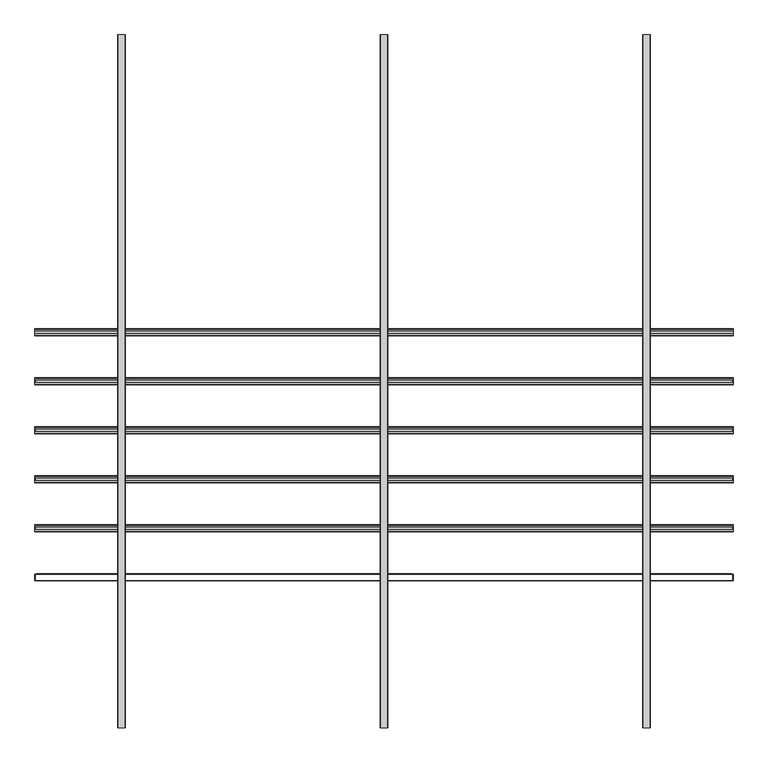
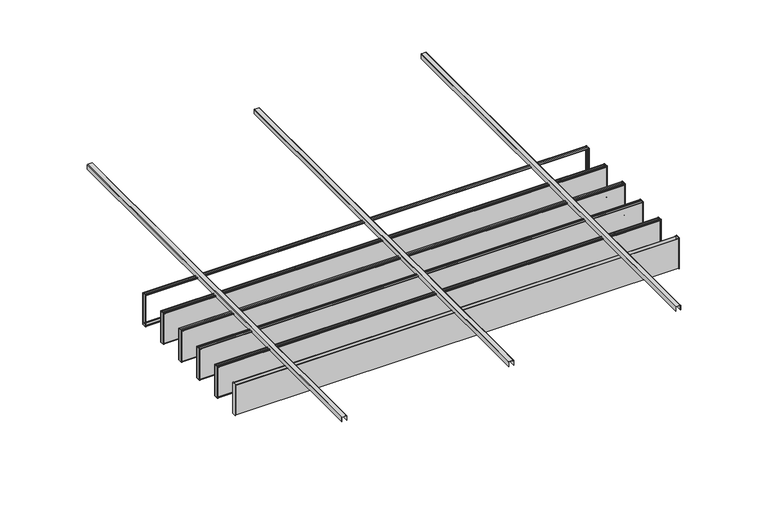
"""IFC4 building model written with IfcOpenShell, lengths in millimetres: proxy geometry, durlum_POLYLAM : durlum_POLYLAM 40."""

from ifc_helpers import new_model, si_unit, point, frame, frame_2d, origin, place, context, project, spatial, polyline, circle_curve, trimmed, segment, composite_curve, outline, extrude, source, transform, mapped, element, save
from ifc_brep_helpers import plane_surface, cylinder_surface, advanced_brep


def generic_models_b32e8602(model_context):
    return source(origin(), model_context, "Body", "SolidModel", [
        advanced_brep(
        [(1995.0, 298.0, 2016.9), (1995.0, 288.0, 2016.9), (1995.0, 288.0, 2015.9), (1995.0, 299.0, 2015.9), (1995.0, 299.0, 1717.9), (1995.0, 261.0, 1717.9), (1995.0, 261.0, 2015.8155735), (1995.0, 272.0, 2015.8155735), (1995.0, 272.0, 2016.9), (1995.0, 262.0, 2016.9), (1995.0, 260.0, 2014.9), (1995.0, 260.0, 1718.9), (1995.0, 262.0, 1716.9), (1995.0, 298.0, 1716.9), (1995.0, 300.0, 1718.9), (1995.0, 300.0, 2014.9), (-1995.0, 298.0, 2016.9), (-1995.0, 300.0, 2014.9), (-1995.0, 300.0, 1718.9), (-1995.0, 298.0, 1716.9), (-1995.0, 262.0, 1716.9), (-1995.0, 260.0, 1718.9), (-1995.0, 260.0, 2014.9), (-1995.0, 262.0, 2016.9), (-1995.0, 272.0, 2016.9), (-1995.0, 272.0, 2015.8155735), (-1995.0, 261.0, 2015.8155735), (-1995.0, 261.0, 1717.9), (-1995.0, 299.0, 1717.9), (-1995.0, 299.0, 2015.9), (-1995.0, 288.0, 2015.9), (-1995.0, 288.0, 2016.9), (-1986.5, 299.0, 2008.4), (1986.5, 299.0, 2008.4), (1986.5, 299.0, 1725.4), (-1986.5, 299.0, 1725.4), (1986.5, 261.0, 2008.4), (-1986.5, 261.0, 2008.4), (-1986.5, 261.0, 1725.4), (1986.5, 261.0, 1725.4), (-1986.5, 260.0, 2008.4), (1986.5, 260.0, 2008.4), (1986.5, 260.0, 1725.4), (-1986.5, 260.0, 1725.4), (1986.5, 300.0, 2008.4), (-1986.5, 300.0, 2008.4), (-1986.5, 300.0, 1725.4), (1986.5, 300.0, 1725.4)],
        [
            (0, 1),
            (1, 2),
            (2, 3),
            (3, 4),
            (4, 5),
            (5, 6),
            (6, 7),
            (7, 8),
            (8, 9),
            (9, 10, circle_curve(frame((1995.0, 262.0, 2014.9), z_axis=(1.0, 0.0, 0.0), x_axis=(0.0, 1.0, 0.0)), 2.0)),
            (10, 11),
            (11, 12, circle_curve(frame((1995.0, 262.0, 1718.9), z_axis=(1.0, 0.0, 0.0), x_axis=(0.0, 1.0, 0.0)), 2.0)),
            (12, 13),
            (13, 14, circle_curve(frame((1995.0, 298.0, 1718.9), z_axis=(1.0, 0.0, 0.0), x_axis=(0.0, 1.0, 0.0)), 2.0)),
            (14, 15),
            (15, 0, circle_curve(frame((1995.0, 298.0, 2014.9), z_axis=(1.0, 0.0, 0.0), x_axis=(0.0, 1.0, 0.0)), 2.0)),
            (16, 17, circle_curve(frame((-1995.0, 298.0, 2014.9), z_axis=(-1.0, 0.0, 0.0), x_axis=(0.0, 1.0, 0.0)), 2.0)),
            (17, 18),
            (18, 19, circle_curve(frame((-1995.0, 298.0, 1718.9), z_axis=(-1.0, 0.0, 0.0), x_axis=(0.0, 1.0, 0.0)), 2.0)),
            (19, 20),
            (20, 21, circle_curve(frame((-1995.0, 262.0, 1718.9), z_axis=(-1.0, 0.0, 0.0), x_axis=(0.0, 1.0, 0.0)), 2.0)),
            (21, 22),
            (22, 23, circle_curve(frame((-1995.0, 262.0, 2014.9), z_axis=(-1.0, 0.0, 0.0), x_axis=(0.0, 1.0, 0.0)), 2.0)),
            (23, 24),
            (24, 25),
            (25, 26),
            (26, 27),
            (27, 28),
            (28, 29),
            (29, 30),
            (30, 31),
            (31, 16),
            (0, 16),
            (31, 1),
            (30, 2),
            (29, 3),
            (28, 4),
            (32, 33),
            (33, 34),
            (34, 35),
            (35, 32),
            (27, 5),
            (26, 6),
            (36, 37),
            (37, 38),
            (38, 39),
            (39, 36),
            (25, 7),
            (24, 8),
            (23, 9),
            (10, 22),
            (21, 11),
            (40, 41),
            (41, 42),
            (42, 43),
            (43, 40),
            (12, 20),
            (19, 13),
            (14, 18),
            (17, 15),
            (44, 45),
            (45, 46),
            (46, 47),
            (47, 44),
            (44, 33),
            (32, 45),
            (36, 41),
            (40, 37),
            (35, 46),
            (43, 38),
            (34, 47),
            (42, 39),
        ],
        [
            plane_surface(frame((1995.0, 288.0, 2016.9), z_axis=(1.0, 0.0, 0.0), x_axis=(0.0, -1.0, 0.0))),
            plane_surface(frame((-1995.0, 288.0, 2016.9), z_axis=(-1.0, 0.0, 0.0), x_axis=(0.0, 1.0, 0.0))),
            plane_surface(frame((1995.0, 298.0, 2016.9), z_axis=(0.0, 0.0, 1.0), x_axis=(-1.0, 0.0, 0.0))),
            plane_surface(frame((1995.0, 288.0, 2016.9), z_axis=(0.0, -1.0, 0.0), x_axis=(-1.0, 0.0, 0.0))),
            plane_surface(frame((1995.0, 288.0, 2015.9), z_axis=(0.0, 0.0, -1.0), x_axis=(-1.0, 0.0, 0.0))),
            plane_surface(frame((1995.0, 299.0, 2015.9), z_axis=(0.0, -1.0, 0.0), x_axis=(-1.0, 0.0, 0.0))),
            plane_surface(frame((1995.0, 299.0, 1717.9), z_axis=(0.0, 0.0, 1.0), x_axis=(-1.0, 0.0, 0.0))),
            plane_surface(frame((1995.0, 261.0, 1717.9), z_axis=(0.0, 1.0, 0.0), x_axis=(-1.0, 0.0, 0.0))),
            plane_surface(frame((1995.0, 261.0, 2015.8155735), z_axis=(0.0, 0.0, -1.0), x_axis=(-1.0, 0.0, 0.0))),
            plane_surface(frame((1995.0, 272.0, 2015.8155735), z_axis=(0.0, 1.0, 0.0), x_axis=(-1.0, 0.0, 0.0))),
            plane_surface(frame((1995.0, 272.0, 2016.9), z_axis=(0.0, 0.0, 1.0), x_axis=(-1.0, 0.0, 0.0))),
            plane_surface(frame((1995.0, 260.0, 2014.9), z_axis=(0.0, -1.0, 0.0), x_axis=(-1.0, 0.0, 0.0))),
            plane_surface(frame((1995.0, 262.0, 1716.9), z_axis=(0.0, 0.0, -1.0), x_axis=(-1.0, 0.0, 0.0))),
            plane_surface(frame((1995.0, 300.0, 1718.9), z_axis=(0.0, 1.0, 0.0), x_axis=(-1.0, 0.0, 0.0))),
            cylinder_surface(frame((-1995.0, 262.0, 2014.9), z_axis=(1.0, 0.0, 0.0), x_axis=(0.0, 1.0, 0.0)), 2.0),
            cylinder_surface(frame((-1995.0, 262.0, 1718.9), z_axis=(1.0, 0.0, 0.0), x_axis=(0.0, 1.0, 0.0)), 2.0),
            cylinder_surface(frame((-1995.0, 298.0, 1718.9), z_axis=(1.0, 0.0, 0.0), x_axis=(0.0, 1.0, 0.0)), 2.0),
            cylinder_surface(frame((-1995.0, 298.0, 2014.9), z_axis=(1.0, 0.0, 0.0), x_axis=(0.0, 1.0, 0.0)), 2.0),
            plane_surface(frame((1986.5, 260.0, 2008.4), z_axis=(0.0, 0.0, -1.0), x_axis=(0.0, 1.0, 0.0))),
            plane_surface(frame((-1986.5, 260.0, 2008.4), z_axis=(1.0, 0.0, 0.0), x_axis=(0.0, 1.0, 0.0))),
            plane_surface(frame((-1986.5, 260.0, 1725.4), z_axis=(0.0, 0.0, 1.0), x_axis=(0.0, 1.0, 0.0))),
            plane_surface(frame((1986.5, 260.0, 1725.4), z_axis=(-1.0, 0.0, 0.0), x_axis=(0.0, 1.0, 0.0))),
        ],
        [
            (0, [[1, 2, 3, 4, 5, 6, 7, 8, 9, 10, 11, 12, 13, 14, 15, 16]]),
            (1, [[17, 18, 19, 20, 21, 22, 23, 24, 25, 26, 27, 28, 29, 30, 31, 32]]),
            (2, [[-1, 33, -32, 34]]),
            (3, [[-2, -34, -31, 35]]),
            (4, [[-3, -35, -30, 36]]),
            (5, [[-4, -36, -29, 37], [38, 39, 40, 41]]),
            (6, [[-5, -37, -28, 42]]),
            (7, [[-6, -42, -27, 43], [44, 45, 46, 47]]),
            (8, [[-7, -43, -26, 48]]),
            (9, [[-8, -48, -25, 49]]),
            (10, [[-9, -49, -24, 50]]),
            (11, [[-11, 51, -22, 52], [53, 54, 55, 56]]),
            (12, [[-13, 57, -20, 58]]),
            (13, [[-15, 59, -18, 60], [61, 62, 63, 64]]),
            (14, [[-10, -50, -23, -51]]),
            (15, [[-12, -52, -21, -57]]),
            (16, [[-14, -58, -19, -59]]),
            (17, [[-16, -60, -17, -33]]),
            (18, [[65, -38, 66, -61]]),
            (18, [[67, -53, 68, -44]]),
            (19, [[-66, -41, 69, -62]]),
            (19, [[-68, -56, 70, -45]]),
            (20, [[-69, -40, 71, -63]]),
            (20, [[-70, -55, 72, -46]]),
            (21, [[-65, -64, -71, -39]]),
            (21, [[-67, -47, -72, -54]]),
        ],
    ),
        extrude(outline(composite_curve([segment(polyline([(2005.0, 22.5), (2047.0, 22.5)]), True, "CONTINUOUS"), segment(trimmed(circle_curve(frame_2d((2047.0, 19.5)), 3.0), [point((2047.0, 22.5))], [point((2050.0, 19.5))], False, "CARTESIAN"), True, "CONTINUOUS"), segment(polyline([(2050.0, 19.5), (2050.0, -19.5)]), True, "CONTINUOUS"), segment(trimmed(circle_curve(frame_2d((2047.0, -19.5)), 3.0), [point((2050.0, -19.5))], [point((2047.0, -22.5))], False, "CARTESIAN"), True, "CONTINUOUS"), segment(polyline([(2047.0, -22.5), (2005.0, -22.5), (2005.0, -21.0), (2047.0, -21.0)]), True, "CONTINUOUS"), segment(trimmed(circle_curve(frame_2d((2047.0, -19.5)), 1.5), [point((2047.0, -21.0))], [point((2048.5, -19.5))], True, "CARTESIAN"), True, "CONTINUOUS"), segment(polyline([(2048.5, -19.5), (2048.5, 19.5)]), True, "CONTINUOUS"), segment(trimmed(circle_curve(frame_2d((2047.0, 19.5)), 1.5), [point((2048.5, 19.5))], [point((2047.0, 21.0))], True, "CARTESIAN"), True, "CONTINUOUS"), segment(polyline([(2047.0, 21.0), (2005.0, 21.0), (2005.0, 22.5)]), True, "CONTINUOUS")], self_intersect=False)), frame((0.0, -1980.0, 0.0), z_axis=(0.0, 1.0, 0.0), x_axis=(0.0, 0.0, 1.0)), (0.0, 0.0, 1.0), 3960.0),
        extrude(outline(composite_curve([segment(polyline([(2005.0, -1477.5), (2047.0, -1477.5)]), True, "CONTINUOUS"), segment(trimmed(circle_curve(frame_2d((2047.0, -1480.5)), 3.0), [point((2047.0, -1477.5))], [point((2050.0, -1480.5))], False, "CARTESIAN"), True, "CONTINUOUS"), segment(polyline([(2050.0, -1480.5), (2050.0, -1519.5)]), True, "CONTINUOUS"), segment(trimmed(circle_curve(frame_2d((2047.0, -1519.5)), 3.0), [point((2050.0, -1519.5))], [point((2047.0, -1522.5))], False, "CARTESIAN"), True, "CONTINUOUS"), segment(polyline([(2047.0, -1522.5), (2005.0, -1522.5), (2005.0, -1521.0), (2047.0, -1521.0)]), True, "CONTINUOUS"), segment(trimmed(circle_curve(frame_2d((2047.0, -1519.5)), 1.5), [point((2047.0, -1521.0))], [point((2048.5, -1519.5))], True, "CARTESIAN"), True, "CONTINUOUS"), segment(polyline([(2048.5, -1519.5), (2048.5, -1480.5)]), True, "CONTINUOUS"), segment(trimmed(circle_curve(frame_2d((2047.0, -1480.5)), 1.5), [point((2048.5, -1480.5))], [point((2047.0, -1479.0))], True, "CARTESIAN"), True, "CONTINUOUS"), segment(polyline([(2047.0, -1479.0), (2005.0, -1479.0), (2005.0, -1477.5)]), True, "CONTINUOUS")], self_intersect=False)), frame((0.0, -1980.0, 0.0), z_axis=(0.0, 1.0, 0.0), x_axis=(0.0, 0.0, 1.0)), (0.0, 0.0, 1.0), 3960.0),
        extrude(outline(composite_curve([segment(polyline([(2005.0, 1522.5), (2047.0, 1522.5)]), True, "CONTINUOUS"), segment(trimmed(circle_curve(frame_2d((2047.0, 1519.5)), 3.0), [point((2047.0, 1522.5))], [point((2050.0, 1519.5))], False, "CARTESIAN"), True, "CONTINUOUS"), segment(polyline([(2050.0, 1519.5), (2050.0, 1480.5)]), True, "CONTINUOUS"), segment(trimmed(circle_curve(frame_2d((2047.0, 1480.5)), 3.0), [point((2050.0, 1480.5))], [point((2047.0, 1477.5))], False, "CARTESIAN"), True, "CONTINUOUS"), segment(polyline([(2047.0, 1477.5), (2005.0, 1477.5), (2005.0, 1479.0), (2047.0, 1479.0)]), True, "CONTINUOUS"), segment(trimmed(circle_curve(frame_2d((2047.0, 1480.5)), 1.5), [point((2047.0, 1479.0))], [point((2048.5, 1480.5))], True, "CARTESIAN"), True, "CONTINUOUS"), segment(polyline([(2048.5, 1480.5), (2048.5, 1519.5)]), True, "CONTINUOUS"), segment(trimmed(circle_curve(frame_2d((2047.0, 1519.5)), 1.5), [point((2048.5, 1519.5))], [point((2047.0, 1521.0))], True, "CARTESIAN"), True, "CONTINUOUS"), segment(polyline([(2047.0, 1521.0), (2005.0, 1521.0), (2005.0, 1522.5)]), True, "CONTINUOUS")], self_intersect=False)), frame((0.0, -1980.0, 0.0), z_axis=(0.0, 1.0, 0.0), x_axis=(0.0, 0.0, 1.0)), (0.0, 0.0, 1.0), 3960.0),
        extrude(outline(polyline([(1986.5, 19.0), (-1986.5, 19.0), (-1986.5, 20.0), (1986.5, 20.0), (1986.5, 19.0)])), frame((0.0, 0.0, 1725.4), z_axis=(0.0, 0.0, 1.0), x_axis=(1.0, 0.0, 0.0)), (0.0, 0.0, 1.0), 283.0),
        extrude(outline(polyline([(1986.5, -20.0), (-1986.5, -20.0), (-1986.5, -19.0), (1986.5, -19.0), (1986.5, -20.0)])), frame((0.0, 0.0, 1725.4), z_axis=(0.0, 0.0, 1.0), x_axis=(1.0, 0.0, 0.0)), (0.0, 0.0, 1.0), 283.0),
        extrude(outline(polyline([(1993.0, 19.0), (1995.0, 19.0), (1995.0, -19.0), (1993.0, -19.0), (1993.0, 19.0)])), frame((0.0, 0.0, 1717.9), z_axis=(0.0, 0.0, 1.0), x_axis=(1.0, 0.0, 0.0)), (0.0, 0.0, 1.0), 298.0),
        extrude(outline(polyline([(-1995.0, 19.0), (-1993.0, 19.0), (-1993.0, -19.0), (-1995.0, -19.0), (-1995.0, 19.0)])), frame((0.0, 0.0, 1717.9), z_axis=(0.0, 0.0, 1.0), x_axis=(1.0, 0.0, 0.0)), (0.0, 0.0, 1.0), 298.0),
        advanced_brep(
        [(1995.0, 18.0, 2016.9), (1995.0, 8.0, 2016.9), (1995.0, 8.0, 2015.9), (1995.0, 19.0, 2015.9), (1995.0, 19.0, 1717.9), (1995.0, -19.0, 1717.9), (1995.0, -19.0, 2015.8155735), (1995.0, -8.0, 2015.8155735), (1995.0, -8.0, 2016.9), (1995.0, -18.0, 2016.9), (1995.0, -20.0, 2014.9), (1995.0, -20.0, 1718.9), (1995.0, -18.0, 1716.9), (1995.0, 18.0, 1716.9), (1995.0, 20.0, 1718.9), (1995.0, 20.0, 2014.9), (-1995.0, 18.0, 2016.9), (-1995.0, 20.0, 2014.9), (-1995.0, 20.0, 1718.9), (-1995.0, 18.0, 1716.9), (-1995.0, -18.0, 1716.9), (-1995.0, -20.0, 1718.9), (-1995.0, -20.0, 2014.9), (-1995.0, -18.0, 2016.9), (-1995.0, -8.0, 2016.9), (-1995.0, -8.0, 2015.8155735), (-1995.0, -19.0, 2015.8155735), (-1995.0, -19.0, 1717.9), (-1995.0, 19.0, 1717.9), (-1995.0, 19.0, 2015.9), (-1995.0, 8.0, 2015.9), (-1995.0, 8.0, 2016.9), (-1986.5, 19.0, 2008.4), (1986.5, 19.0, 2008.4), (1986.5, 19.0, 1725.4), (-1986.5, 19.0, 1725.4), (1986.5, -19.0, 2008.4), (-1986.5, -19.0, 2008.4), (-1986.5, -19.0, 1725.4), (1986.5, -19.0, 1725.4), (-1986.5, -20.0, 2008.4), (1986.5, -20.0, 2008.4), (1986.5, -20.0, 1725.4), (-1986.5, -20.0, 1725.4), (1986.5, 20.0, 2008.4), (-1986.5, 20.0, 2008.4), (-1986.5, 20.0, 1725.4), (1986.5, 20.0, 1725.4)],
        [
            (0, 1),
            (1, 2),
            (2, 3),
            (3, 4),
            (4, 5),
            (5, 6),
            (6, 7),
            (7, 8),
            (8, 9),
            (9, 10, circle_curve(frame((1995.0, -18.0, 2014.9), z_axis=(1.0, 0.0, 0.0), x_axis=(0.0, 1.0, 0.0)), 2.0)),
            (10, 11),
            (11, 12, circle_curve(frame((1995.0, -18.0, 1718.9), z_axis=(1.0, 0.0, 0.0), x_axis=(0.0, 1.0, 0.0)), 2.0)),
            (12, 13),
            (13, 14, circle_curve(frame((1995.0, 18.0, 1718.9), z_axis=(1.0, 0.0, 0.0), x_axis=(0.0, 1.0, 0.0)), 2.0)),
            (14, 15),
            (15, 0, circle_curve(frame((1995.0, 18.0, 2014.9), z_axis=(1.0, 0.0, 0.0), x_axis=(0.0, 1.0, 0.0)), 2.0)),
            (16, 17, circle_curve(frame((-1995.0, 18.0, 2014.9), z_axis=(-1.0, 0.0, 0.0), x_axis=(0.0, 1.0, 0.0)), 2.0)),
            (17, 18),
            (18, 19, circle_curve(frame((-1995.0, 18.0, 1718.9), z_axis=(-1.0, 0.0, 0.0), x_axis=(0.0, 1.0, 0.0)), 2.0)),
            (19, 20),
            (20, 21, circle_curve(frame((-1995.0, -18.0, 1718.9), z_axis=(-1.0, 0.0, 0.0), x_axis=(0.0, 1.0, 0.0)), 2.0)),
            (21, 22),
            (22, 23, circle_curve(frame((-1995.0, -18.0, 2014.9), z_axis=(-1.0, 0.0, 0.0), x_axis=(0.0, 1.0, 0.0)), 2.0)),
            (23, 24),
            (24, 25),
            (25, 26),
            (26, 27),
            (27, 28),
            (28, 29),
            (29, 30),
            (30, 31),
            (31, 16),
            (0, 16),
            (31, 1),
            (30, 2),
            (29, 3),
            (28, 4),
            (32, 33),
            (33, 34),
            (34, 35),
            (35, 32),
            (27, 5),
            (26, 6),
            (36, 37),
            (37, 38),
            (38, 39),
            (39, 36),
            (25, 7),
            (24, 8),
            (23, 9),
            (10, 22),
            (21, 11),
            (40, 41),
            (41, 42),
            (42, 43),
            (43, 40),
            (12, 20),
            (19, 13),
            (14, 18),
            (17, 15),
            (44, 45),
            (45, 46),
            (46, 47),
            (47, 44),
            (44, 33),
            (32, 45),
            (36, 41),
            (40, 37),
            (35, 46),
            (43, 38),
            (34, 47),
            (42, 39),
        ],
        [
            plane_surface(frame((1995.0, 8.0, 2016.9), z_axis=(1.0, 0.0, 0.0), x_axis=(0.0, -1.0, 0.0))),
            plane_surface(frame((-1995.0, 8.0, 2016.9), z_axis=(-1.0, 0.0, 0.0), x_axis=(0.0, 1.0, 0.0))),
            plane_surface(frame((1995.0, 18.0, 2016.9), z_axis=(0.0, 0.0, 1.0), x_axis=(-1.0, 0.0, 0.0))),
            plane_surface(frame((1995.0, 8.0, 2016.9), z_axis=(0.0, -1.0, 0.0), x_axis=(-1.0, 0.0, 0.0))),
            plane_surface(frame((1995.0, 8.0, 2015.9), z_axis=(0.0, 0.0, -1.0), x_axis=(-1.0, 0.0, 0.0))),
            plane_surface(frame((1995.0, 19.0, 2015.9), z_axis=(0.0, -1.0, 0.0), x_axis=(-1.0, 0.0, 0.0))),
            plane_surface(frame((1995.0, 19.0, 1717.9), z_axis=(0.0, 0.0, 1.0), x_axis=(-1.0, 0.0, 0.0))),
            plane_surface(frame((1995.0, -19.0, 1717.9), z_axis=(0.0, 1.0, 0.0), x_axis=(-1.0, 0.0, 0.0))),
            plane_surface(frame((1995.0, -19.0, 2015.8155735), z_axis=(0.0, 0.0, -1.0), x_axis=(-1.0, 0.0, 0.0))),
            plane_surface(frame((1995.0, -8.0, 2015.8155735), z_axis=(0.0, 1.0, 0.0), x_axis=(-1.0, 0.0, 0.0))),
            plane_surface(frame((1995.0, -8.0, 2016.9), z_axis=(0.0, 0.0, 1.0), x_axis=(-1.0, 0.0, 0.0))),
            plane_surface(frame((1995.0, -20.0, 2014.9), z_axis=(0.0, -1.0, 0.0), x_axis=(-1.0, 0.0, 0.0))),
            plane_surface(frame((1995.0, -18.0, 1716.9), z_axis=(0.0, 0.0, -1.0), x_axis=(-1.0, 0.0, 0.0))),
            plane_surface(frame((1995.0, 20.0, 1718.9), z_axis=(0.0, 1.0, 0.0), x_axis=(-1.0, 0.0, 0.0))),
            cylinder_surface(frame((-1995.0, -18.0, 2014.9), z_axis=(1.0, 0.0, 0.0), x_axis=(0.0, 1.0, 0.0)), 2.0),
            cylinder_surface(frame((-1995.0, -18.0, 1718.9), z_axis=(1.0, 0.0, 0.0), x_axis=(0.0, 1.0, 0.0)), 2.0),
            cylinder_surface(frame((-1995.0, 18.0, 1718.9), z_axis=(1.0, 0.0, 0.0), x_axis=(0.0, 1.0, 0.0)), 2.0),
            cylinder_surface(frame((-1995.0, 18.0, 2014.9), z_axis=(1.0, 0.0, 0.0), x_axis=(0.0, 1.0, 0.0)), 2.0),
            plane_surface(frame((1986.5, -20.0, 2008.4), z_axis=(0.0, 0.0, -1.0), x_axis=(0.0, 1.0, 0.0))),
            plane_surface(frame((-1986.5, -20.0, 2008.4), z_axis=(1.0, 0.0, 0.0), x_axis=(0.0, 1.0, 0.0))),
            plane_surface(frame((-1986.5, -20.0, 1725.4), z_axis=(0.0, 0.0, 1.0), x_axis=(0.0, 1.0, 0.0))),
            plane_surface(frame((1986.5, -20.0, 1725.4), z_axis=(-1.0, 0.0, 0.0), x_axis=(0.0, 1.0, 0.0))),
        ],
        [
            (0, [[1, 2, 3, 4, 5, 6, 7, 8, 9, 10, 11, 12, 13, 14, 15, 16]]),
            (1, [[17, 18, 19, 20, 21, 22, 23, 24, 25, 26, 27, 28, 29, 30, 31, 32]]),
            (2, [[-1, 33, -32, 34]]),
            (3, [[-2, -34, -31, 35]]),
            (4, [[-3, -35, -30, 36]]),
            (5, [[-4, -36, -29, 37], [38, 39, 40, 41]]),
            (6, [[-5, -37, -28, 42]]),
            (7, [[-6, -42, -27, 43], [44, 45, 46, 47]]),
            (8, [[-7, -43, -26, 48]]),
            (9, [[-8, -48, -25, 49]]),
            (10, [[-9, -49, -24, 50]]),
            (11, [[-11, 51, -22, 52], [53, 54, 55, 56]]),
            (12, [[-13, 57, -20, 58]]),
            (13, [[-15, 59, -18, 60], [61, 62, 63, 64]]),
            (14, [[-10, -50, -23, -51]]),
            (15, [[-12, -52, -21, -57]]),
            (16, [[-14, -58, -19, -59]]),
            (17, [[-16, -60, -17, -33]]),
            (18, [[65, -38, 66, -61]]),
            (18, [[67, -53, 68, -44]]),
            (19, [[-66, -41, 69, -62]]),
            (19, [[-68, -56, 70, -45]]),
            (20, [[-69, -40, 71, -63]]),
            (20, [[-70, -55, 72, -46]]),
            (21, [[-65, -64, -71, -39]]),
            (21, [[-67, -47, -72, -54]]),
        ],
    ),
        extrude(outline(polyline([(1986.5, -261.0), (-1986.5, -261.0), (-1986.5, -260.0), (1986.5, -260.0), (1986.5, -261.0)])), frame((0.0, 0.0, 1725.4), z_axis=(0.0, 0.0, 1.0), x_axis=(1.0, 0.0, 0.0)), (0.0, 0.0, 1.0), 283.0),
        extrude(outline(polyline([(1986.5, -300.0), (-1986.5, -300.0), (-1986.5, -299.0), (1986.5, -299.0), (1986.5, -300.0)])), frame((0.0, 0.0, 1725.4), z_axis=(0.0, 0.0, 1.0), x_axis=(1.0, 0.0, 0.0)), (0.0, 0.0, 1.0), 283.0),
        extrude(outline(polyline([(1993.0, -261.0), (1995.0, -261.0), (1995.0, -299.0), (1993.0, -299.0), (1993.0, -261.0)])), frame((0.0, 0.0, 1717.9), z_axis=(0.0, 0.0, 1.0), x_axis=(1.0, 0.0, 0.0)), (0.0, 0.0, 1.0), 298.0),
        extrude(outline(polyline([(-1995.0, -261.0), (-1993.0, -261.0), (-1993.0, -299.0), (-1995.0, -299.0), (-1995.0, -261.0)])), frame((0.0, 0.0, 1717.9), z_axis=(0.0, 0.0, 1.0), x_axis=(1.0, 0.0, 0.0)), (0.0, 0.0, 1.0), 298.0),
        advanced_brep(
        [(1995.0, -262.0, 2016.9), (1995.0, -272.0, 2016.9), (1995.0, -272.0, 2015.9), (1995.0, -261.0, 2015.9), (1995.0, -261.0, 1717.9), (1995.0, -299.0, 1717.9), (1995.0, -299.0, 2015.8155735), (1995.0, -288.0, 2015.8155735), (1995.0, -288.0, 2016.9), (1995.0, -298.0, 2016.9), (1995.0, -300.0, 2014.9), (1995.0, -300.0, 1718.9), (1995.0, -298.0, 1716.9), (1995.0, -262.0, 1716.9), (1995.0, -260.0, 1718.9), (1995.0, -260.0, 2014.9), (-1995.0, -262.0, 2016.9), (-1995.0, -260.0, 2014.9), (-1995.0, -260.0, 1718.9), (-1995.0, -262.0, 1716.9), (-1995.0, -298.0, 1716.9), (-1995.0, -300.0, 1718.9), (-1995.0, -300.0, 2014.9), (-1995.0, -298.0, 2016.9), (-1995.0, -288.0, 2016.9), (-1995.0, -288.0, 2015.8155735), (-1995.0, -299.0, 2015.8155735), (-1995.0, -299.0, 1717.9), (-1995.0, -261.0, 1717.9), (-1995.0, -261.0, 2015.9), (-1995.0, -272.0, 2015.9), (-1995.0, -272.0, 2016.9), (-1986.5, -261.0, 2008.4), (1986.5, -261.0, 2008.4), (1986.5, -261.0, 1725.4), (-1986.5, -261.0, 1725.4), (1986.5, -299.0, 2008.4), (-1986.5, -299.0, 2008.4), (-1986.5, -299.0, 1725.4), (1986.5, -299.0, 1725.4), (-1986.5, -300.0, 2008.4), (1986.5, -300.0, 2008.4), (1986.5, -300.0, 1725.4), (-1986.5, -300.0, 1725.4), (1986.5, -260.0, 2008.4), (-1986.5, -260.0, 2008.4), (-1986.5, -260.0, 1725.4), (1986.5, -260.0, 1725.4)],
        [
            (0, 1),
            (1, 2),
            (2, 3),
            (3, 4),
            (4, 5),
            (5, 6),
            (6, 7),
            (7, 8),
            (8, 9),
            (9, 10, circle_curve(frame((1995.0, -298.0, 2014.9), z_axis=(1.0, 0.0, 0.0), x_axis=(0.0, 1.0, 0.0)), 2.0)),
            (10, 11),
            (11, 12, circle_curve(frame((1995.0, -298.0, 1718.9), z_axis=(1.0, 0.0, 0.0), x_axis=(0.0, 1.0, 0.0)), 2.0)),
            (12, 13),
            (13, 14, circle_curve(frame((1995.0, -262.0, 1718.9), z_axis=(1.0, 0.0, 0.0), x_axis=(0.0, 1.0, 0.0)), 2.0)),
            (14, 15),
            (15, 0, circle_curve(frame((1995.0, -262.0, 2014.9), z_axis=(1.0, 0.0, 0.0), x_axis=(0.0, 1.0, 0.0)), 2.0)),
            (16, 17, circle_curve(frame((-1995.0, -262.0, 2014.9), z_axis=(-1.0, 0.0, 0.0), x_axis=(0.0, 1.0, 0.0)), 2.0)),
            (17, 18),
            (18, 19, circle_curve(frame((-1995.0, -262.0, 1718.9), z_axis=(-1.0, 0.0, 0.0), x_axis=(0.0, 1.0, 0.0)), 2.0)),
            (19, 20),
            (20, 21, circle_curve(frame((-1995.0, -298.0, 1718.9), z_axis=(-1.0, 0.0, 0.0), x_axis=(0.0, 1.0, 0.0)), 2.0)),
            (21, 22),
            (22, 23, circle_curve(frame((-1995.0, -298.0, 2014.9), z_axis=(-1.0, 0.0, 0.0), x_axis=(0.0, 1.0, 0.0)), 2.0)),
            (23, 24),
            (24, 25),
            (25, 26),
            (26, 27),
            (27, 28),
            (28, 29),
            (29, 30),
            (30, 31),
            (31, 16),
            (0, 16),
            (31, 1),
            (30, 2),
            (29, 3),
            (28, 4),
            (32, 33),
            (33, 34),
            (34, 35),
            (35, 32),
            (27, 5),
            (26, 6),
            (36, 37),
            (37, 38),
            (38, 39),
            (39, 36),
            (25, 7),
            (24, 8),
            (23, 9),
            (10, 22),
            (21, 11),
            (40, 41),
            (41, 42),
            (42, 43),
            (43, 40),
            (12, 20),
            (19, 13),
            (14, 18),
            (17, 15),
            (44, 45),
            (45, 46),
            (46, 47),
            (47, 44),
            (44, 33),
            (32, 45),
            (36, 41),
            (40, 37),
            (35, 46),
            (43, 38),
            (34, 47),
            (42, 39),
        ],
        [
            plane_surface(frame((1995.0, -272.0, 2016.9), z_axis=(1.0, 0.0, 0.0), x_axis=(0.0, -1.0, 0.0))),
            plane_surface(frame((-1995.0, -272.0, 2016.9), z_axis=(-1.0, 0.0, 0.0), x_axis=(0.0, 1.0, 0.0))),
            plane_surface(frame((1995.0, -262.0, 2016.9), z_axis=(0.0, 0.0, 1.0), x_axis=(-1.0, 0.0, 0.0))),
            plane_surface(frame((1995.0, -272.0, 2016.9), z_axis=(0.0, -1.0, 0.0), x_axis=(-1.0, 0.0, 0.0))),
            plane_surface(frame((1995.0, -272.0, 2015.9), z_axis=(0.0, 0.0, -1.0), x_axis=(-1.0, 0.0, 0.0))),
            plane_surface(frame((1995.0, -261.0, 2015.9), z_axis=(0.0, -1.0, 0.0), x_axis=(-1.0, 0.0, 0.0))),
            plane_surface(frame((1995.0, -261.0, 1717.9), z_axis=(0.0, 0.0, 1.0), x_axis=(-1.0, 0.0, 0.0))),
            plane_surface(frame((1995.0, -299.0, 1717.9), z_axis=(0.0, 1.0, 0.0), x_axis=(-1.0, 0.0, 0.0))),
            plane_surface(frame((1995.0, -299.0, 2015.8155735), z_axis=(0.0, 0.0, -1.0), x_axis=(-1.0, 0.0, 0.0))),
            plane_surface(frame((1995.0, -288.0, 2015.8155735), z_axis=(0.0, 1.0, 0.0), x_axis=(-1.0, 0.0, 0.0))),
            plane_surface(frame((1995.0, -288.0, 2016.9), z_axis=(0.0, 0.0, 1.0), x_axis=(-1.0, 0.0, 0.0))),
            plane_surface(frame((1995.0, -300.0, 2014.9), z_axis=(0.0, -1.0, 0.0), x_axis=(-1.0, 0.0, 0.0))),
            plane_surface(frame((1995.0, -298.0, 1716.9), z_axis=(0.0, 0.0, -1.0), x_axis=(-1.0, 0.0, 0.0))),
            plane_surface(frame((1995.0, -260.0, 1718.9), z_axis=(0.0, 1.0, 0.0), x_axis=(-1.0, 0.0, 0.0))),
            cylinder_surface(frame((-1995.0, -298.0, 2014.9), z_axis=(1.0, 0.0, 0.0), x_axis=(0.0, 1.0, 0.0)), 2.0),
            cylinder_surface(frame((-1995.0, -298.0, 1718.9), z_axis=(1.0, 0.0, 0.0), x_axis=(0.0, 1.0, 0.0)), 2.0),
            cylinder_surface(frame((-1995.0, -262.0, 1718.9), z_axis=(1.0, 0.0, 0.0), x_axis=(0.0, 1.0, 0.0)), 2.0),
            cylinder_surface(frame((-1995.0, -262.0, 2014.9), z_axis=(1.0, 0.0, 0.0), x_axis=(0.0, 1.0, 0.0)), 2.0),
            plane_surface(frame((1986.5, -300.0, 2008.4), z_axis=(0.0, 0.0, -1.0), x_axis=(0.0, 1.0, 0.0))),
            plane_surface(frame((-1986.5, -300.0, 2008.4), z_axis=(1.0, 0.0, 0.0), x_axis=(0.0, 1.0, 0.0))),
            plane_surface(frame((-1986.5, -300.0, 1725.4), z_axis=(0.0, 0.0, 1.0), x_axis=(0.0, 1.0, 0.0))),
            plane_surface(frame((1986.5, -300.0, 1725.4), z_axis=(-1.0, 0.0, 0.0), x_axis=(0.0, 1.0, 0.0))),
        ],
        [
            (0, [[1, 2, 3, 4, 5, 6, 7, 8, 9, 10, 11, 12, 13, 14, 15, 16]]),
            (1, [[17, 18, 19, 20, 21, 22, 23, 24, 25, 26, 27, 28, 29, 30, 31, 32]]),
            (2, [[-1, 33, -32, 34]]),
            (3, [[-2, -34, -31, 35]]),
            (4, [[-3, -35, -30, 36]]),
            (5, [[-4, -36, -29, 37], [38, 39, 40, 41]]),
            (6, [[-5, -37, -28, 42]]),
            (7, [[-6, -42, -27, 43], [44, 45, 46, 47]]),
            (8, [[-7, -43, -26, 48]]),
            (9, [[-8, -48, -25, 49]]),
            (10, [[-9, -49, -24, 50]]),
            (11, [[-11, 51, -22, 52], [53, 54, 55, 56]]),
            (12, [[-13, 57, -20, 58]]),
            (13, [[-15, 59, -18, 60], [61, 62, 63, 64]]),
            (14, [[-10, -50, -23, -51]]),
            (15, [[-12, -52, -21, -57]]),
            (16, [[-14, -58, -19, -59]]),
            (17, [[-16, -60, -17, -33]]),
            (18, [[65, -38, 66, -61]]),
            (18, [[67, -53, 68, -44]]),
            (19, [[-66, -41, 69, -62]]),
            (19, [[-68, -56, 70, -45]]),
            (20, [[-69, -40, 71, -63]]),
            (20, [[-70, -55, 72, -46]]),
            (21, [[-65, -64, -71, -39]]),
            (21, [[-67, -47, -72, -54]]),
        ],
    ),
        extrude(outline(polyline([(1986.5, -541.0), (-1986.5, -541.0), (-1986.5, -540.0), (1986.5, -540.0), (1986.5, -541.0)])), frame((0.0, 0.0, 1725.4), z_axis=(0.0, 0.0, 1.0), x_axis=(1.0, 0.0, 0.0)), (0.0, 0.0, 1.0), 283.0),
        extrude(outline(polyline([(1986.5, -580.0), (-1986.5, -580.0), (-1986.5, -579.0), (1986.5, -579.0), (1986.5, -580.0)])), frame((0.0, 0.0, 1725.4), z_axis=(0.0, 0.0, 1.0), x_axis=(1.0, 0.0, 0.0)), (0.0, 0.0, 1.0), 283.0),
        extrude(outline(polyline([(1993.0, -541.0), (1995.0, -541.0), (1995.0, -579.0), (1993.0, -579.0), (1993.0, -541.0)])), frame((0.0, 0.0, 1717.9), z_axis=(0.0, 0.0, 1.0), x_axis=(1.0, 0.0, 0.0)), (0.0, 0.0, 1.0), 298.0),
        extrude(outline(polyline([(-1995.0, -541.0), (-1993.0, -541.0), (-1993.0, -579.0), (-1995.0, -579.0), (-1995.0, -541.0)])), frame((0.0, 0.0, 1717.9), z_axis=(0.0, 0.0, 1.0), x_axis=(1.0, 0.0, 0.0)), (0.0, 0.0, 1.0), 298.0),
        advanced_brep(
        [(1995.0, -542.0, 2016.9), (1995.0, -552.0, 2016.9), (1995.0, -552.0, 2015.9), (1995.0, -541.0, 2015.9), (1995.0, -541.0, 1717.9), (1995.0, -579.0, 1717.9), (1995.0, -579.0, 2015.8155735), (1995.0, -568.0, 2015.8155735), (1995.0, -568.0, 2016.9), (1995.0, -578.0, 2016.9), (1995.0, -580.0, 2014.9), (1995.0, -580.0, 1718.9), (1995.0, -578.0, 1716.9), (1995.0, -542.0, 1716.9), (1995.0, -540.0, 1718.9), (1995.0, -540.0, 2014.9), (-1995.0, -542.0, 2016.9), (-1995.0, -540.0, 2014.9), (-1995.0, -540.0, 1718.9), (-1995.0, -542.0, 1716.9), (-1995.0, -578.0, 1716.9), (-1995.0, -580.0, 1718.9), (-1995.0, -580.0, 2014.9), (-1995.0, -578.0, 2016.9), (-1995.0, -568.0, 2016.9), (-1995.0, -568.0, 2015.8155735), (-1995.0, -579.0, 2015.8155735), (-1995.0, -579.0, 1717.9), (-1995.0, -541.0, 1717.9), (-1995.0, -541.0, 2015.9), (-1995.0, -552.0, 2015.9), (-1995.0, -552.0, 2016.9), (-1986.5, -541.0, 2008.4), (1986.5, -541.0, 2008.4), (1986.5, -541.0, 1725.4), (-1986.5, -541.0, 1725.4), (1986.5, -579.0, 2008.4), (-1986.5, -579.0, 2008.4), (-1986.5, -579.0, 1725.4), (1986.5, -579.0, 1725.4), (-1986.5, -580.0, 2008.4), (1986.5, -580.0, 2008.4), (1986.5, -580.0, 1725.4), (-1986.5, -580.0, 1725.4), (1986.5, -540.0, 2008.4), (-1986.5, -540.0, 2008.4), (-1986.5, -540.0, 1725.4), (1986.5, -540.0, 1725.4)],
        [
            (0, 1),
            (1, 2),
            (2, 3),
            (3, 4),
            (4, 5),
            (5, 6),
            (6, 7),
            (7, 8),
            (8, 9),
            (9, 10, circle_curve(frame((1995.0, -578.0, 2014.9), z_axis=(1.0, 0.0, 0.0), x_axis=(0.0, 1.0, 0.0)), 2.0)),
            (10, 11),
            (11, 12, circle_curve(frame((1995.0, -578.0, 1718.9), z_axis=(1.0, 0.0, 0.0), x_axis=(0.0, 1.0, 0.0)), 2.0)),
            (12, 13),
            (13, 14, circle_curve(frame((1995.0, -542.0, 1718.9), z_axis=(1.0, 0.0, 0.0), x_axis=(0.0, 1.0, 0.0)), 2.0)),
            (14, 15),
            (15, 0, circle_curve(frame((1995.0, -542.0, 2014.9), z_axis=(1.0, 0.0, 0.0), x_axis=(0.0, 1.0, 0.0)), 2.0)),
            (16, 17, circle_curve(frame((-1995.0, -542.0, 2014.9), z_axis=(-1.0, 0.0, 0.0), x_axis=(0.0, 1.0, 0.0)), 2.0)),
            (17, 18),
            (18, 19, circle_curve(frame((-1995.0, -542.0, 1718.9), z_axis=(-1.0, 0.0, 0.0), x_axis=(0.0, 1.0, 0.0)), 2.0)),
            (19, 20),
            (20, 21, circle_curve(frame((-1995.0, -578.0, 1718.9), z_axis=(-1.0, 0.0, 0.0), x_axis=(0.0, 1.0, 0.0)), 2.0)),
            (21, 22),
            (22, 23, circle_curve(frame((-1995.0, -578.0, 2014.9), z_axis=(-1.0, 0.0, 0.0), x_axis=(0.0, 1.0, 0.0)), 2.0)),
            (23, 24),
            (24, 25),
            (25, 26),
            (26, 27),
            (27, 28),
            (28, 29),
            (29, 30),
            (30, 31),
            (31, 16),
            (0, 16),
            (31, 1),
            (30, 2),
            (29, 3),
            (28, 4),
            (32, 33),
            (33, 34),
            (34, 35),
            (35, 32),
            (27, 5),
            (26, 6),
            (36, 37),
            (37, 38),
            (38, 39),
            (39, 36),
            (25, 7),
            (24, 8),
            (23, 9),
            (10, 22),
            (21, 11),
            (40, 41),
            (41, 42),
            (42, 43),
            (43, 40),
            (12, 20),
            (19, 13),
            (14, 18),
            (17, 15),
            (44, 45),
            (45, 46),
            (46, 47),
            (47, 44),
            (44, 33),
            (32, 45),
            (36, 41),
            (40, 37),
            (35, 46),
            (43, 38),
            (34, 47),
            (42, 39),
        ],
        [
            plane_surface(frame((1995.0, -552.0, 2016.9), z_axis=(1.0, 0.0, 0.0), x_axis=(0.0, -1.0, 0.0))),
            plane_surface(frame((-1995.0, -552.0, 2016.9), z_axis=(-1.0, 0.0, 0.0), x_axis=(0.0, 1.0, 0.0))),
            plane_surface(frame((1995.0, -542.0, 2016.9), z_axis=(0.0, 0.0, 1.0), x_axis=(-1.0, 0.0, 0.0))),
            plane_surface(frame((1995.0, -552.0, 2016.9), z_axis=(0.0, -1.0, 0.0), x_axis=(-1.0, 0.0, 0.0))),
            plane_surface(frame((1995.0, -552.0, 2015.9), z_axis=(0.0, 0.0, -1.0), x_axis=(-1.0, 0.0, 0.0))),
            plane_surface(frame((1995.0, -541.0, 2015.9), z_axis=(0.0, -1.0, 0.0), x_axis=(-1.0, 0.0, 0.0))),
            plane_surface(frame((1995.0, -541.0, 1717.9), z_axis=(0.0, 0.0, 1.0), x_axis=(-1.0, 0.0, 0.0))),
            plane_surface(frame((1995.0, -579.0, 1717.9), z_axis=(0.0, 1.0, 0.0), x_axis=(-1.0, 0.0, 0.0))),
            plane_surface(frame((1995.0, -579.0, 2015.8155735), z_axis=(0.0, 0.0, -1.0), x_axis=(-1.0, 0.0, 0.0))),
            plane_surface(frame((1995.0, -568.0, 2015.8155735), z_axis=(0.0, 1.0, 0.0), x_axis=(-1.0, 0.0, 0.0))),
            plane_surface(frame((1995.0, -568.0, 2016.9), z_axis=(0.0, 0.0, 1.0), x_axis=(-1.0, 0.0, 0.0))),
            plane_surface(frame((1995.0, -580.0, 2014.9), z_axis=(0.0, -1.0, 0.0), x_axis=(-1.0, 0.0, 0.0))),
            plane_surface(frame((1995.0, -578.0, 1716.9), z_axis=(0.0, 0.0, -1.0), x_axis=(-1.0, 0.0, 0.0))),
            plane_surface(frame((1995.0, -540.0, 1718.9), z_axis=(0.0, 1.0, 0.0), x_axis=(-1.0, 0.0, 0.0))),
            cylinder_surface(frame((-1995.0, -578.0, 2014.9), z_axis=(1.0, 0.0, 0.0), x_axis=(0.0, 1.0, 0.0)), 2.0),
            cylinder_surface(frame((-1995.0, -578.0, 1718.9), z_axis=(1.0, 0.0, 0.0), x_axis=(0.0, 1.0, 0.0)), 2.0),
            cylinder_surface(frame((-1995.0, -542.0, 1718.9), z_axis=(1.0, 0.0, 0.0), x_axis=(0.0, 1.0, 0.0)), 2.0),
            cylinder_surface(frame((-1995.0, -542.0, 2014.9), z_axis=(1.0, 0.0, 0.0), x_axis=(0.0, 1.0, 0.0)), 2.0),
            plane_surface(frame((1986.5, -580.0, 2008.4), z_axis=(0.0, 0.0, -1.0), x_axis=(0.0, 1.0, 0.0))),
            plane_surface(frame((-1986.5, -580.0, 2008.4), z_axis=(1.0, 0.0, 0.0), x_axis=(0.0, 1.0, 0.0))),
            plane_surface(frame((-1986.5, -580.0, 1725.4), z_axis=(0.0, 0.0, 1.0), x_axis=(0.0, 1.0, 0.0))),
            plane_surface(frame((1986.5, -580.0, 1725.4), z_axis=(-1.0, 0.0, 0.0), x_axis=(0.0, 1.0, 0.0))),
        ],
        [
            (0, [[1, 2, 3, 4, 5, 6, 7, 8, 9, 10, 11, 12, 13, 14, 15, 16]]),
            (1, [[17, 18, 19, 20, 21, 22, 23, 24, 25, 26, 27, 28, 29, 30, 31, 32]]),
            (2, [[-1, 33, -32, 34]]),
            (3, [[-2, -34, -31, 35]]),
            (4, [[-3, -35, -30, 36]]),
            (5, [[-4, -36, -29, 37], [38, 39, 40, 41]]),
            (6, [[-5, -37, -28, 42]]),
            (7, [[-6, -42, -27, 43], [44, 45, 46, 47]]),
            (8, [[-7, -43, -26, 48]]),
            (9, [[-8, -48, -25, 49]]),
            (10, [[-9, -49, -24, 50]]),
            (11, [[-11, 51, -22, 52], [53, 54, 55, 56]]),
            (12, [[-13, 57, -20, 58]]),
            (13, [[-15, 59, -18, 60], [61, 62, 63, 64]]),
            (14, [[-10, -50, -23, -51]]),
            (15, [[-12, -52, -21, -57]]),
            (16, [[-14, -58, -19, -59]]),
            (17, [[-16, -60, -17, -33]]),
            (18, [[65, -38, 66, -61]]),
            (18, [[67, -53, 68, -44]]),
            (19, [[-66, -41, 69, -62]]),
            (19, [[-68, -56, 70, -45]]),
            (20, [[-69, -40, 71, -63]]),
            (20, [[-70, -55, 72, -46]]),
            (21, [[-65, -64, -71, -39]]),
            (21, [[-67, -47, -72, -54]]),
        ],
    ),
        extrude(outline(polyline([(1986.5, -821.0), (-1986.5, -821.0), (-1986.5, -820.0), (1986.5, -820.0), (1986.5, -821.0)])), frame((0.0, 0.0, 1725.4), z_axis=(0.0, 0.0, 1.0), x_axis=(1.0, 0.0, 0.0)), (0.0, 0.0, 1.0), 283.0),
        extrude(outline(polyline([(1986.5, -860.0), (-1986.5, -860.0), (-1986.5, -859.0), (1986.5, -859.0), (1986.5, -860.0)])), frame((0.0, 0.0, 1725.4), z_axis=(0.0, 0.0, 1.0), x_axis=(1.0, 0.0, 0.0)), (0.0, 0.0, 1.0), 283.0),
        extrude(outline(polyline([(1993.0, -821.0), (1995.0, -821.0), (1995.0, -859.0), (1993.0, -859.0), (1993.0, -821.0)])), frame((0.0, 0.0, 1717.9), z_axis=(0.0, 0.0, 1.0), x_axis=(1.0, 0.0, 0.0)), (0.0, 0.0, 1.0), 298.0),
        extrude(outline(polyline([(-1995.0, -821.0), (-1993.0, -821.0), (-1993.0, -859.0), (-1995.0, -859.0), (-1995.0, -821.0)])), frame((0.0, 0.0, 1717.9), z_axis=(0.0, 0.0, 1.0), x_axis=(1.0, 0.0, 0.0)), (0.0, 0.0, 1.0), 298.0),
        advanced_brep(
        [(1995.0, -822.0, 2016.9), (1995.0, -832.0, 2016.9), (1995.0, -832.0, 2015.9), (1995.0, -821.0, 2015.9), (1995.0, -821.0, 1717.9), (1995.0, -859.0, 1717.9), (1995.0, -859.0, 2015.8155735), (1995.0, -848.0, 2015.8155735), (1995.0, -848.0, 2016.9), (1995.0, -858.0, 2016.9), (1995.0, -860.0, 2014.9), (1995.0, -860.0, 1718.9), (1995.0, -858.0, 1716.9), (1995.0, -822.0, 1716.9), (1995.0, -820.0, 1718.9), (1995.0, -820.0, 2014.9), (-1995.0, -822.0, 2016.9), (-1995.0, -820.0, 2014.9), (-1995.0, -820.0, 1718.9), (-1995.0, -822.0, 1716.9), (-1995.0, -858.0, 1716.9), (-1995.0, -860.0, 1718.9), (-1995.0, -860.0, 2014.9), (-1995.0, -858.0, 2016.9), (-1995.0, -848.0, 2016.9), (-1995.0, -848.0, 2015.8155735), (-1995.0, -859.0, 2015.8155735), (-1995.0, -859.0, 1717.9), (-1995.0, -821.0, 1717.9), (-1995.0, -821.0, 2015.9), (-1995.0, -832.0, 2015.9), (-1995.0, -832.0, 2016.9), (-1986.5, -821.0, 2008.4), (1986.5, -821.0, 2008.4), (1986.5, -821.0, 1725.4), (-1986.5, -821.0, 1725.4), (1986.5, -859.0, 2008.4), (-1986.5, -859.0, 2008.4), (-1986.5, -859.0, 1725.4), (1986.5, -859.0, 1725.4), (-1986.5, -860.0, 2008.4), (1986.5, -860.0, 2008.4), (1986.5, -860.0, 1725.4), (-1986.5, -860.0, 1725.4), (1986.5, -820.0, 2008.4), (-1986.5, -820.0, 2008.4), (-1986.5, -820.0, 1725.4), (1986.5, -820.0, 1725.4)],
        [
            (0, 1),
            (1, 2),
            (2, 3),
            (3, 4),
            (4, 5),
            (5, 6),
            (6, 7),
            (7, 8),
            (8, 9),
            (9, 10, circle_curve(frame((1995.0, -858.0, 2014.9), z_axis=(1.0, 0.0, 0.0), x_axis=(0.0, 1.0, 0.0)), 2.0)),
            (10, 11),
            (11, 12, circle_curve(frame((1995.0, -858.0, 1718.9), z_axis=(1.0, 0.0, 0.0), x_axis=(0.0, 1.0, 0.0)), 2.0)),
            (12, 13),
            (13, 14, circle_curve(frame((1995.0, -822.0, 1718.9), z_axis=(1.0, 0.0, 0.0), x_axis=(0.0, 1.0, 0.0)), 2.0)),
            (14, 15),
            (15, 0, circle_curve(frame((1995.0, -822.0, 2014.9), z_axis=(1.0, 0.0, 0.0), x_axis=(0.0, 1.0, 0.0)), 2.0)),
            (16, 17, circle_curve(frame((-1995.0, -822.0, 2014.9), z_axis=(-1.0, 0.0, 0.0), x_axis=(0.0, 1.0, 0.0)), 2.0)),
            (17, 18),
            (18, 19, circle_curve(frame((-1995.0, -822.0, 1718.9), z_axis=(-1.0, 0.0, 0.0), x_axis=(0.0, 1.0, 0.0)), 2.0)),
            (19, 20),
            (20, 21, circle_curve(frame((-1995.0, -858.0, 1718.9), z_axis=(-1.0, 0.0, 0.0), x_axis=(0.0, 1.0, 0.0)), 2.0)),
            (21, 22),
            (22, 23, circle_curve(frame((-1995.0, -858.0, 2014.9), z_axis=(-1.0, 0.0, 0.0), x_axis=(0.0, 1.0, 0.0)), 2.0)),
            (23, 24),
            (24, 25),
            (25, 26),
            (26, 27),
            (27, 28),
            (28, 29),
            (29, 30),
            (30, 31),
            (31, 16),
            (0, 16),
            (31, 1),
            (30, 2),
            (29, 3),
            (28, 4),
            (32, 33),
            (33, 34),
            (34, 35),
            (35, 32),
            (27, 5),
            (26, 6),
            (36, 37),
            (37, 38),
            (38, 39),
            (39, 36),
            (25, 7),
            (24, 8),
            (23, 9),
            (10, 22),
            (21, 11),
            (40, 41),
            (41, 42),
            (42, 43),
            (43, 40),
            (12, 20),
            (19, 13),
            (14, 18),
            (17, 15),
            (44, 45),
            (45, 46),
            (46, 47),
            (47, 44),
            (44, 33),
            (32, 45),
            (36, 41),
            (40, 37),
            (35, 46),
            (43, 38),
            (34, 47),
            (42, 39),
        ],
        [
            plane_surface(frame((1995.0, -832.0, 2016.9), z_axis=(1.0, 0.0, 0.0), x_axis=(0.0, -1.0, 0.0))),
            plane_surface(frame((-1995.0, -832.0, 2016.9), z_axis=(-1.0, 0.0, 0.0), x_axis=(0.0, 1.0, 0.0))),
            plane_surface(frame((1995.0, -822.0, 2016.9), z_axis=(0.0, 0.0, 1.0), x_axis=(-1.0, 0.0, 0.0))),
            plane_surface(frame((1995.0, -832.0, 2016.9), z_axis=(0.0, -1.0, 0.0), x_axis=(-1.0, 0.0, 0.0))),
            plane_surface(frame((1995.0, -832.0, 2015.9), z_axis=(0.0, 0.0, -1.0), x_axis=(-1.0, 0.0, 0.0))),
            plane_surface(frame((1995.0, -821.0, 2015.9), z_axis=(0.0, -1.0, 0.0), x_axis=(-1.0, 0.0, 0.0))),
            plane_surface(frame((1995.0, -821.0, 1717.9), z_axis=(0.0, 0.0, 1.0), x_axis=(-1.0, 0.0, 0.0))),
            plane_surface(frame((1995.0, -859.0, 1717.9), z_axis=(0.0, 1.0, 0.0), x_axis=(-1.0, 0.0, 0.0))),
            plane_surface(frame((1995.0, -859.0, 2015.8155735), z_axis=(0.0, 0.0, -1.0), x_axis=(-1.0, 0.0, 0.0))),
            plane_surface(frame((1995.0, -848.0, 2015.8155735), z_axis=(0.0, 1.0, 0.0), x_axis=(-1.0, 0.0, 0.0))),
            plane_surface(frame((1995.0, -848.0, 2016.9), z_axis=(0.0, 0.0, 1.0), x_axis=(-1.0, 0.0, 0.0))),
            plane_surface(frame((1995.0, -860.0, 2014.9), z_axis=(0.0, -1.0, 0.0), x_axis=(-1.0, 0.0, 0.0))),
            plane_surface(frame((1995.0, -858.0, 1716.9), z_axis=(0.0, 0.0, -1.0), x_axis=(-1.0, 0.0, 0.0))),
            plane_surface(frame((1995.0, -820.0, 1718.9), z_axis=(0.0, 1.0, 0.0), x_axis=(-1.0, 0.0, 0.0))),
            cylinder_surface(frame((-1995.0, -858.0, 2014.9), z_axis=(1.0, 0.0, 0.0), x_axis=(0.0, 1.0, 0.0)), 2.0),
            cylinder_surface(frame((-1995.0, -858.0, 1718.9), z_axis=(1.0, 0.0, 0.0), x_axis=(0.0, 1.0, 0.0)), 2.0),
            cylinder_surface(frame((-1995.0, -822.0, 1718.9), z_axis=(1.0, 0.0, 0.0), x_axis=(0.0, 1.0, 0.0)), 2.0),
            cylinder_surface(frame((-1995.0, -822.0, 2014.9), z_axis=(1.0, 0.0, 0.0), x_axis=(0.0, 1.0, 0.0)), 2.0),
            plane_surface(frame((1986.5, -860.0, 2008.4), z_axis=(0.0, 0.0, -1.0), x_axis=(0.0, 1.0, 0.0))),
            plane_surface(frame((-1986.5, -860.0, 2008.4), z_axis=(1.0, 0.0, 0.0), x_axis=(0.0, 1.0, 0.0))),
            plane_surface(frame((-1986.5, -860.0, 1725.4), z_axis=(0.0, 0.0, 1.0), x_axis=(0.0, 1.0, 0.0))),
            plane_surface(frame((1986.5, -860.0, 1725.4), z_axis=(-1.0, 0.0, 0.0), x_axis=(0.0, 1.0, 0.0))),
        ],
        [
            (0, [[1, 2, 3, 4, 5, 6, 7, 8, 9, 10, 11, 12, 13, 14, 15, 16]]),
            (1, [[17, 18, 19, 20, 21, 22, 23, 24, 25, 26, 27, 28, 29, 30, 31, 32]]),
            (2, [[-1, 33, -32, 34]]),
            (3, [[-2, -34, -31, 35]]),
            (4, [[-3, -35, -30, 36]]),
            (5, [[-4, -36, -29, 37], [38, 39, 40, 41]]),
            (6, [[-5, -37, -28, 42]]),
            (7, [[-6, -42, -27, 43], [44, 45, 46, 47]]),
            (8, [[-7, -43, -26, 48]]),
            (9, [[-8, -48, -25, 49]]),
            (10, [[-9, -49, -24, 50]]),
            (11, [[-11, 51, -22, 52], [53, 54, 55, 56]]),
            (12, [[-13, 57, -20, 58]]),
            (13, [[-15, 59, -18, 60], [61, 62, 63, 64]]),
            (14, [[-10, -50, -23, -51]]),
            (15, [[-12, -52, -21, -57]]),
            (16, [[-14, -58, -19, -59]]),
            (17, [[-16, -60, -17, -33]]),
            (18, [[65, -38, 66, -61]]),
            (18, [[67, -53, 68, -44]]),
            (19, [[-66, -41, 69, -62]]),
            (19, [[-68, -56, 70, -45]]),
            (20, [[-69, -40, 71, -63]]),
            (20, [[-70, -55, 72, -46]]),
            (21, [[-65, -64, -71, -39]]),
            (21, [[-67, -47, -72, -54]]),
        ],
    ),
        extrude(outline(polyline([(1986.5, -1101.0), (-1986.5, -1101.0), (-1986.5, -1100.0), (1986.5, -1100.0), (1986.5, -1101.0)])), frame((0.0, 0.0, 1725.4), z_axis=(0.0, 0.0, 1.0), x_axis=(1.0, 0.0, 0.0)), (0.0, 0.0, 1.0), 283.0),
        extrude(outline(polyline([(1986.5, -1140.0), (-1986.5, -1140.0), (-1986.5, -1139.0), (1986.5, -1139.0), (1986.5, -1140.0)])), frame((0.0, 0.0, 1725.4), z_axis=(0.0, 0.0, 1.0), x_axis=(1.0, 0.0, 0.0)), (0.0, 0.0, 1.0), 283.0),
        extrude(outline(polyline([(1993.0, -1101.0), (1995.0, -1101.0), (1995.0, -1139.0), (1993.0, -1139.0), (1993.0, -1101.0)])), frame((0.0, 0.0, 1717.9), z_axis=(0.0, 0.0, 1.0), x_axis=(1.0, 0.0, 0.0)), (0.0, 0.0, 1.0), 298.0),
        extrude(outline(polyline([(-1995.0, -1101.0), (-1993.0, -1101.0), (-1993.0, -1139.0), (-1995.0, -1139.0), (-1995.0, -1101.0)])), frame((0.0, 0.0, 1717.9), z_axis=(0.0, 0.0, 1.0), x_axis=(1.0, 0.0, 0.0)), (0.0, 0.0, 1.0), 298.0),
    ])


if __name__ == "__main__":
    model = new_model("IFC4")
    model_context = context("Model", 3, world=origin())
    ifc_project = project(units=[si_unit("LENGTHUNIT", "METRE", prefix="MILLI")], contexts=[model_context])
    site = spatial("IfcSite", under=ifc_project)
    building = spatial("IfcBuilding", under=site)
    placement = place(None, origin())
    generic_models_shape = generic_models_b32e8602(model_context)
    element("IfcBuildingElementProxy", 1, Name="durlum_POLYLAM : durlum_POLYLAM 40", ObjectType="durlum_POLYLAM : durlum_POLYLAM 40", at=placement, inside=building, context=model_context, shape_type="MappedRepresentation", body=[
        mapped(generic_models_shape, transform((0.0, 0.0, 0.0), x_axis=(1.0, 0.0, 0.0), y_axis=(0.0, 1.0, 0.0), z_axis=(0.0, 0.0, 1.0))),
    ])
    save(model, "model.ifc")
